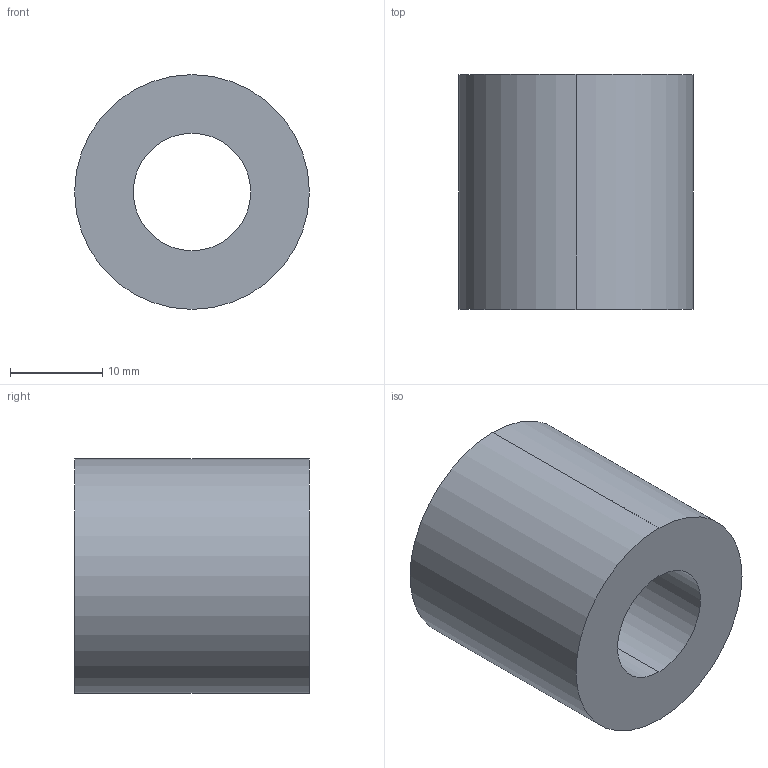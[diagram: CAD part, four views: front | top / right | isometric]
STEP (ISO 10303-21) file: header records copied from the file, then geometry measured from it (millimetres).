
FILE_DESCRIPTION (( 'STEP AP203' ), '1' );
FILE_NAME ('wssok1ss.STEP', '2020-01-24T16:13:02', ( '' ), ( '' ), 'SwSTEP 2.0', 'SolidWorks 2016', '' );
FILE_SCHEMA (( 'CONFIG_CONTROL_DESIGN' ));
Length unit declared in the file: inch
Products named in the file (2): 87572504; wssok1ss
Assembly tree (1 placements, depth 2):
  wssok1ss
    87572504
Bounding box: 25.4 x 25.4 x 25.4 mm (x, y, z)
Volume: 9652.8 mm3; surface area: 3800.3 mm2
Topology: 1 solids, 1 shells, 6 faces, 12 edges, 8 vertices
Faces by surface type: cylinder 4, plane 2
Entity records: 368 total; most frequent: DIRECTION 40, CARTESIAN_POINT 30, ORIENTED_EDGE 24, AXIS2_PLACEMENT_3D 18, PERSON_AND_ORGANIZATION 17, CALENDAR_DATE 12, DATE_AND_TIME 12, EDGE_CURVE 12
